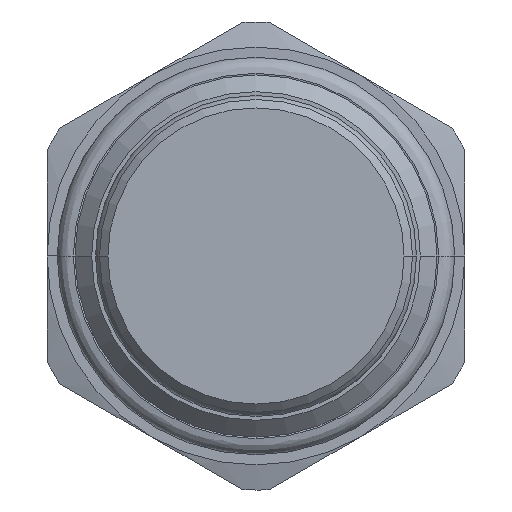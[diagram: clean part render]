
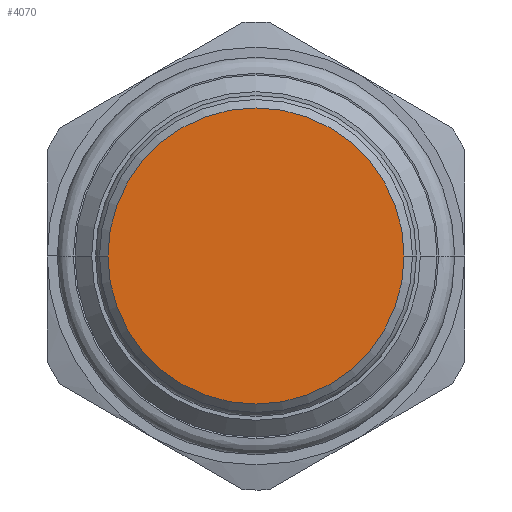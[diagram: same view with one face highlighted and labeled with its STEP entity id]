
A CAD part, front view. The second image highlights one B-rep face of the part: STEP entity #4070.
In plain terms, the highlighted planar face has unit normal (0, -1, 0).
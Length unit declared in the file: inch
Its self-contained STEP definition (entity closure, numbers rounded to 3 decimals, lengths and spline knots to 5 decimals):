
#1541=CARTESIAN_POINT('',(0.,-1.75,0.));
#1542=DIRECTION('',(0.,1.,0.));
#1543=DIRECTION('',(-1.,0.,0.));
#1544=AXIS2_PLACEMENT_3D('',#1541,#1542,#1543);
#1546=CARTESIAN_POINT('',(0.,-1.75,0.));
#1547=DIRECTION('',(0.,1.,0.));
#1548=DIRECTION('',(1.,0.,0.));
#1549=AXIS2_PLACEMENT_3D('',#1546,#1547,#1548);
#1657=CARTESIAN_POINT('',(-0.5315,-1.75,0.));
#1658=CARTESIAN_POINT('',(0.5315,-1.75,0.));
#1659=VERTEX_POINT('',#1657);
#1660=VERTEX_POINT('',#1658);
#4060=CARTESIAN_POINT('',(0.,-1.75,0.));
#4061=DIRECTION('',(0.,-1.,0.));
#4062=DIRECTION('',(-1.,0.,0.));
#4063=AXIS2_PLACEMENT_3D('',#4060,#4061,#4062);
#4064=PLANE('',#4063);
#4065=ORIENTED_EDGE('',*,*,#4050,.T.);
#4067=ORIENTED_EDGE('',*,*,#4066,.T.);
#4068=EDGE_LOOP('',(#4065,#4067));
#4069=FACE_OUTER_BOUND('',#4068,.F.);
#4070=ADVANCED_FACE('',(#4069),#4064,.T.);
#1545=CIRCLE('',#1544,0.5315);
#1550=CIRCLE('',#1549,0.5315);
#4050=EDGE_CURVE('',#1659,#1660,#1545,.T.);
#4066=EDGE_CURVE('',#1660,#1659,#1550,.T.);
